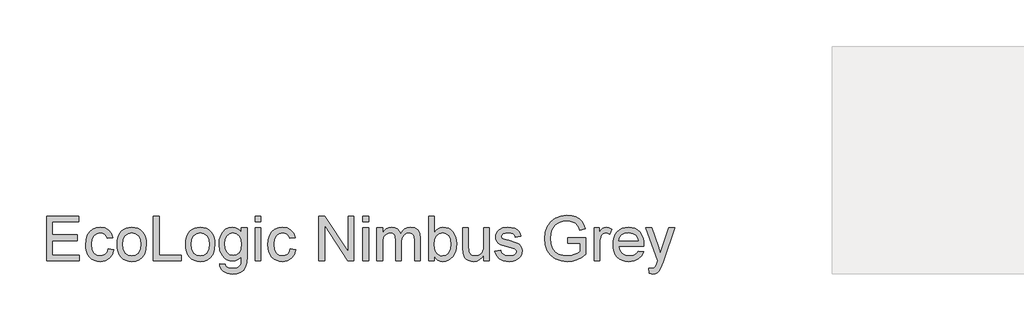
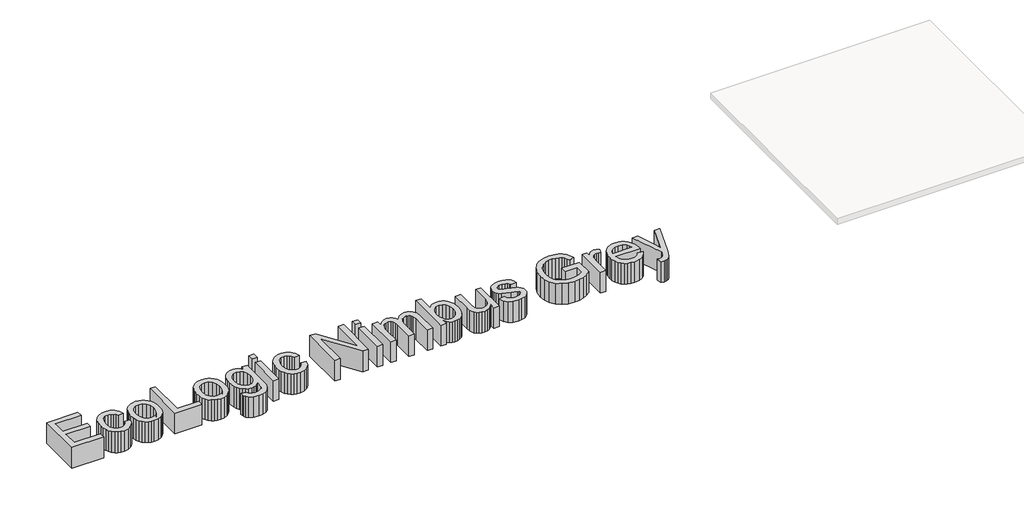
# One storey, part 6 of 6: 1 proxy.
"""IFC4 building model written with IfcOpenShell, lengths in millimetres."""

from ifc_helpers import new_model, si_unit, frame, origin, place, context, project, spatial, polyline, outline, extrude, element, save

model = new_model("IFC4")

# Units and contexts
model_context = context("Model", 3, world=origin())
ifc_project = project(units=[si_unit("LENGTHUNIT", "METRE", prefix="MILLI")], contexts=[model_context])

# Site, building, storey
site = spatial("IfcSite", under=ifc_project)
building = spatial("IfcBuilding", under=site)
storey = spatial("IfcBuildingStorey", under=building, Name="Marley Concrete Interlocking", Elevation=3000.0)

# Proxy
placement = place(None, origin())
element("IfcBuildingElementProxy", 1, Name="600mm Arial", ObjectType="600mm Arial", at=placement, inside=storey, context=model_context, shape_type="SweptSolid", body=[
    extrude(outline(polyline([(-7577.8402677, 3460.405545), (-7577.8402677, 3755.7901604), (-7365.5325754, 3755.7901604), (-7365.5325754, 3718.8670834), (-7540.9171908, 3718.8670834), (-7540.9171908, 3631.1747757), (-7374.7633446, 3631.1747757), (-7374.7633446, 3594.2516988), (-7540.9171908, 3594.2516988), (-7540.9171908, 3497.3286219), (-7360.9171908, 3497.3286219), (-7360.9171908, 3460.405545), (-7577.8402677, 3460.405545)])), frame((0.0, 0.0, 3000.0), z_axis=(0.0, 0.0, 1.0), x_axis=(1.0, 0.0, 0.0)), (0.0, 0.0, 1.0), 150.0),
    extrude(outline(polyline([(-7171.6864215, 3538.8670834), (-7134.7633446, 3534.2516988), (-7145.0578158, 3501.4121556), (-7164.4027677, 3476.5954488), (-7190.9772869, 3460.9914825), (-7222.96046, 3455.7901604), (-7243.6688434, 3457.604313), (-7262.2363013, 3463.0467709), (-7278.6628338, 3472.1175342), (-7292.9484408, 3484.8166027), (-7304.511692, 3500.9050943), (-7312.7711571, 3520.1441267), (-7317.7268362, 3542.5337), (-7319.3787292, 3568.0738142), (-7316.5572148, 3600.9313863), (-7308.0926715, 3629.4079488), (-7293.8498831, 3652.4037421), (-7273.6936331, 3668.8190065), (-7249.5800513, 3678.6627565), (-7223.4652677, 3681.9440065), (-7192.2663494, 3677.436795), (-7167.3234408, 3663.9151604), (-7149.429811, 3642.1002565), (-7139.3787292, 3612.7132373), (-7176.3018062, 3608.0978527), (-7182.9995225, 3624.2066267), (-7193.42921, 3635.7541027), (-7207.0139456, 3642.7042229), (-7223.1768062, 3645.0209296), (-7247.037984, 3640.4596315), (-7265.9772869, 3626.7757373), (-7278.336061, 3603.2300642), (-7282.4556523, 3569.0834296), (-7278.4262052, 3534.4770594), (-7266.3378638, 3510.8502565), (-7247.741109, 3497.2474921), (-7224.1864215, 3492.7132373), (-7205.0668302, 3495.5437661), (-7189.3907485, 3504.0353527), (-7177.9875033, 3518.4043431), (-7171.6864215, 3538.8670834)])), frame((0.0, 0.0, 3000.0), z_axis=(0.0, 0.0, 1.0), x_axis=(1.0, 0.0, 0.0)), (0.0, 0.0, 1.0), 150.0),
    extrude(outline(polyline([(-7111.6864215, 3568.8670834), (-7109.6897268, 3596.960533), (-7103.6996427, 3621.1687661), (-7093.7161691, 3641.491783), (-7079.7393062, 3657.9295834), (-7065.6677917, 3668.4358935), (-7050.1359408, 3675.9404007), (-7033.1437533, 3680.4431051), (-7014.6912292, 3681.9440065), (-6994.3208867, 3680.1163322), (-6975.9021667, 3674.6333094), (-6959.4350694, 3665.494938), (-6944.9195946, 3652.7012181), (-6933.0723891, 3636.6848419), (-6924.6100994, 3617.8785017), (-6919.5327256, 3596.2821976), (-6917.8402677, 3571.8959296), (-6920.8330562, 3534.5942469), (-6929.8114215, 3506.1988142), (-6944.5139456, 3484.9337902), (-6964.67921, 3469.0233334), (-6988.6305321, 3459.0984536), (-7014.6912292, 3455.7901604), (-7035.3590477, 3457.6110738), (-7053.9490417, 3463.0738142), (-7070.4612112, 3472.1783815), (-7084.8955562, 3484.9247757), (-7096.6165598, 3501.0966507), (-7104.9887052, 3520.4776604), (-7110.0119925, 3543.0678046), (-7111.6864215, 3568.8670834)]), holes=[polyline([(-7074.7633446, 3568.9391988), (-7070.4905081, 3535.5227325), (-7057.6719985, 3511.7156411), (-7038.3811331, 3497.4638382), (-7014.6912292, 3492.7132373), (-6991.1094985, 3497.4908815), (-6971.8546908, 3511.8238142), (-6959.0361812, 3535.9464104), (-6954.7633446, 3570.093045), (-6959.0632244, 3602.5359536), (-6971.9628638, 3626.0185257), (-6991.2447148, 3640.2703286), (-7014.6912292, 3645.0209296), (-7038.3811331, 3640.2883575), (-7057.6719985, 3626.0906411), (-7070.4905081, 3602.3376363), (-7074.7633446, 3568.9391988)])]), frame((0.0, 0.0, 3000.0), z_axis=(0.0, 0.0, 1.0), x_axis=(1.0, 0.0, 0.0)), (0.0, 0.0, 1.0), 150.0),
    extrude(outline(polyline([(-6871.6864215, 3460.405545), (-6871.6864215, 3755.7901604), (-6834.7633446, 3755.7901604), (-6834.7633446, 3497.3286219), (-6687.0710369, 3497.3286219), (-6687.0710369, 3460.405545), (-6871.6864215, 3460.405545)])), frame((0.0, 0.0, 3000.0), z_axis=(0.0, 0.0, 1.0), x_axis=(1.0, 0.0, 0.0)), (0.0, 0.0, 1.0), 150.0),
    extrude(outline(polyline([(-6659.3787292, 3568.8670834), (-6657.3820345, 3596.960533), (-6651.3919504, 3621.1687661), (-6641.4084768, 3641.491783), (-6627.4316138, 3657.9295834), (-6613.3600994, 3668.4358935), (-6597.8282485, 3675.9404007), (-6580.836061, 3680.4431051), (-6562.3835369, 3681.9440065), (-6542.0131944, 3680.1163322), (-6523.5944744, 3674.6333094), (-6507.1273771, 3665.494938), (-6492.6119023, 3652.7012181), (-6480.7646968, 3636.6848419), (-6472.3024071, 3617.8785017), (-6467.2250333, 3596.2821976), (-6465.5325754, 3571.8959296), (-6468.5253638, 3534.5942469), (-6477.5037292, 3506.1988142), (-6492.2062533, 3484.9337902), (-6512.3715177, 3469.0233334), (-6536.3228398, 3459.0984536), (-6562.3835369, 3455.7901604), (-6583.0513554, 3457.6110738), (-6601.6413494, 3463.0738142), (-6618.1535189, 3472.1783815), (-6632.5878638, 3484.9247757), (-6644.3088675, 3501.0966507), (-6652.6810129, 3520.4776604), (-6657.7043001, 3543.0678046), (-6659.3787292, 3568.8670834)]), holes=[polyline([(-6622.4556523, 3568.9391988), (-6618.1828158, 3535.5227325), (-6605.3643062, 3511.7156411), (-6586.0734408, 3497.4638382), (-6562.3835369, 3492.7132373), (-6538.8018062, 3497.4908815), (-6519.5469985, 3511.8238142), (-6506.7284888, 3535.9464104), (-6502.4556523, 3570.093045), (-6506.7555321, 3602.5359536), (-6519.6551715, 3626.0185257), (-6538.9370225, 3640.2703286), (-6562.3835369, 3645.0209296), (-6586.0734408, 3640.2883575), (-6605.3643062, 3626.0906411), (-6618.1828158, 3602.3376363), (-6622.4556523, 3568.9391988)])]), frame((0.0, 0.0, 3000.0), z_axis=(0.0, 0.0, 1.0), x_axis=(1.0, 0.0, 0.0)), (0.0, 0.0, 1.0), 150.0),
    extrude(outline(polyline([(-6433.2248831, 3441.9440065), (-6396.3018062, 3437.3286219), (-6392.2272869, 3425.7901604), (-6384.3306523, 3417.8574681), (-6368.8078158, 3411.6916027), (-6348.4893062, 3409.6363142), (-6326.8186331, 3411.9620354), (-6310.7008446, 3418.9391988), (-6299.52296, 3430.1170834), (-6292.6719985, 3445.0449681), (-6290.14796, 3488.0978527), (-6302.4346187, 3475.9824681), (-6316.1455562, 3467.3286219), (-6331.2807725, 3462.1363142), (-6347.8402677, 3460.405545), (-6368.0844083, 3462.4202685), (-6385.9081763, 3468.4644392), (-6401.3115718, 3478.538057), (-6414.2945946, 3492.6411219), (-6424.5958266, 3509.561194), (-6431.9538494, 3528.0858334), (-6437.8402677, 3569.9488142), (-6435.1990417, 3599.7595113), (-6427.2753638, 3627.1723719), (-6414.3486812, 3650.4025402), (-6396.6984408, 3667.6651604), (-6374.928609, 3678.374295), (-6349.6431523, 3681.9440065), (-6332.3760249, 3679.9247757), (-6316.7044504, 3673.8670834), (-6302.6284288, 3663.7709296), (-6290.14796, 3649.6363142), (-6290.14796, 3677.3286219), (-6253.2248831, 3677.3286219), (-6253.2248831, 3490.0449681), (-6255.7489215, 3446.8027806), (-6263.3210369, 3418.3262181), (-6276.3649071, 3399.4410017), (-6295.30421, 3384.9728527), (-6319.7242821, 3375.7781411), (-6349.21046, 3372.7132373), (-6383.5644263, 3377.0311459), (-6410.61671, 3389.9848719), (-6420.8052617, 3399.7091808), (-6427.9694744, 3411.6104729), (-6432.1093482, 3425.6887481), (-6433.2248831, 3441.9440065)]), holes=[polyline([(-6400.9171908, 3572.4728527), (-6396.9778879, 3538.6056652), (-6385.1599792, 3515.3214104), (-6367.3925513, 3501.826819), (-6345.6046908, 3497.3286219), (-6323.9790898, 3501.7997757), (-6306.1215177, 3515.2132373), (-6294.1413494, 3538.2000161), (-6290.14796, 3571.3911219), (-6294.2585369, 3603.4013382), (-6306.5902677, 3626.4512181), (-6324.7092581, 3640.3785017), (-6346.1816138, 3645.0209296), (-6367.2663494, 3640.4506171), (-6384.9436331, 3626.7396796), (-6396.9238013, 3604.0323479), (-6400.9171908, 3572.4728527)])]), frame((0.0, 0.0, 3000.0), z_axis=(0.0, 0.0, 1.0), x_axis=(1.0, 0.0, 0.0)), (0.0, 0.0, 1.0), 150.0),
    extrude(outline(polyline([(-6197.8402677, 3460.405545), (-6197.8402677, 3677.3286219), (-6160.9171908, 3677.3286219), (-6160.9171908, 3460.405545), (-6197.8402677, 3460.405545)])), frame((0.0, 0.0, 3000.0), z_axis=(0.0, 0.0, 1.0), x_axis=(1.0, 0.0, 0.0)), (0.0, 0.0, 1.0), 150.0),
    extrude(outline(polyline([(-6197.8402677, 3718.8670834), (-6197.8402677, 3755.7901604), (-6160.9171908, 3755.7901604), (-6160.9171908, 3718.8670834), (-6197.8402677, 3718.8670834)])), frame((0.0, 0.0, 3000.0), z_axis=(0.0, 0.0, 1.0), x_axis=(1.0, 0.0, 0.0)), (0.0, 0.0, 1.0), 150.0),
    extrude(outline(polyline([(-5967.0710369, 3538.8670834), (-5930.14796, 3534.2516988), (-5940.4424312, 3501.4121556), (-5959.7873831, 3476.5954488), (-5986.3619023, 3460.9914825), (-6018.3450754, 3455.7901604), (-6039.0534588, 3457.604313), (-6057.6209167, 3463.0467709), (-6074.0474492, 3472.1175342), (-6088.3330562, 3484.8166027), (-6099.8963074, 3500.9050943), (-6108.1557725, 3520.1441267), (-6113.1114516, 3542.5337), (-6114.7633446, 3568.0738142), (-6111.9418302, 3600.9313863), (-6103.4772869, 3629.4079488), (-6089.2344985, 3652.4037421), (-6069.0782485, 3668.8190065), (-6044.9646667, 3678.6627565), (-6018.8498831, 3681.9440065), (-5987.6509648, 3677.436795), (-5962.7080562, 3663.9151604), (-5944.8144263, 3642.1002565), (-5934.7633446, 3612.7132373), (-5971.6864215, 3608.0978527), (-5978.3841379, 3624.2066267), (-5988.8138254, 3635.7541027), (-6002.398561, 3642.7042229), (-6018.5614215, 3645.0209296), (-6042.4225994, 3640.4596315), (-6061.3619023, 3626.7757373), (-6073.7206763, 3603.2300642), (-6077.8402677, 3569.0834296), (-6073.8108206, 3534.4770594), (-6061.7224792, 3510.8502565), (-6043.1257244, 3497.2474921), (-6019.5710369, 3492.7132373), (-6000.4514456, 3495.5437661), (-5984.7753638, 3504.0353527), (-5973.3721187, 3518.4043431), (-5967.0710369, 3538.8670834)])), frame((0.0, 0.0, 3000.0), z_axis=(0.0, 0.0, 1.0), x_axis=(1.0, 0.0, 0.0)), (0.0, 0.0, 1.0), 150.0),
    extrude(outline(polyline([(-5777.8402677, 3460.405545), (-5777.8402677, 3755.7901604), (-5738.3210369, 3755.7901604), (-5583.9941138, 3521.7757373), (-5583.9941138, 3755.7901604), (-5547.0710369, 3755.7901604), (-5547.0710369, 3460.405545), (-5586.5902677, 3460.405545), (-5740.9171908, 3694.4920834), (-5740.9171908, 3460.405545), (-5777.8402677, 3460.405545)])), frame((0.0, 0.0, 3000.0), z_axis=(0.0, 0.0, 1.0), x_axis=(1.0, 0.0, 0.0)), (0.0, 0.0, 1.0), 150.0),
    extrude(outline(polyline([(-5487.0710369, 3460.405545), (-5487.0710369, 3677.3286219), (-5450.14796, 3677.3286219), (-5450.14796, 3460.405545), (-5487.0710369, 3460.405545)])), frame((0.0, 0.0, 3000.0), z_axis=(0.0, 0.0, 1.0), x_axis=(1.0, 0.0, 0.0)), (0.0, 0.0, 1.0), 150.0),
    extrude(outline(polyline([(-5487.0710369, 3718.8670834), (-5487.0710369, 3755.7901604), (-5450.14796, 3755.7901604), (-5450.14796, 3718.8670834), (-5487.0710369, 3718.8670834)])), frame((0.0, 0.0, 3000.0), z_axis=(0.0, 0.0, 1.0), x_axis=(1.0, 0.0, 0.0)), (0.0, 0.0, 1.0), 150.0),
    extrude(outline(polyline([(-5394.7633446, 3460.405545), (-5394.7633446, 3677.3286219), (-5357.8402677, 3677.3286219), (-5357.8402677, 3641.6315065), (-5346.7344985, 3658.0287421), (-5332.4556523, 3670.874295), (-5315.4905081, 3679.1765786), (-5296.3258446, 3681.9440065), (-5275.7909888, 3679.1224921), (-5259.3306523, 3670.6579488), (-5247.0349792, 3657.1092709), (-5238.9941138, 3639.0353527), (-5225.5355802, 3657.8078887), (-5210.1840177, 3671.2168431), (-5192.9394263, 3679.2622157), (-5173.8018062, 3681.9440065), (-5146.0463975, 3677.4818671), (-5125.5205562, 3664.0954488), (-5112.8372629, 3641.4241748), (-5108.6094985, 3609.1074681), (-5108.6094985, 3460.405545), (-5145.5325754, 3460.405545), (-5145.5325754, 3593.2420834), (-5148.9580562, 3624.0714104), (-5153.7717581, 3632.5720113), (-5161.3619023, 3639.2516988), (-5171.1245225, 3643.5786219), (-5182.4556523, 3645.0209296), (-5202.4586571, 3641.3250161), (-5218.7657485, 3630.2372757), (-5229.6100994, 3611.0004969), (-5233.2248831, 3582.8574681), (-5233.2248831, 3460.405545), (-5270.14796, 3460.405545), (-5270.14796, 3597.3526604), (-5272.2843783, 3618.2300642), (-5278.6936331, 3633.1218911), (-5289.9706763, 3642.04617), (-5306.71046, 3645.0209296), (-5320.9352196, 3643.0377565), (-5334.0421908, 3637.0882373), (-5344.8594985, 3627.3166027), (-5352.2152677, 3613.8670834), (-5356.4340177, 3595.2072277), (-5357.8402677, 3569.8045834), (-5357.8402677, 3460.405545), (-5394.7633446, 3460.405545)])), frame((0.0, 0.0, 3000.0), z_axis=(0.0, 0.0, 1.0), x_axis=(1.0, 0.0, 0.0)), (0.0, 0.0, 1.0), 150.0),
    extrude(outline(polyline([(-5016.3018062, 3460.405545), (-5053.2248831, 3460.405545), (-5053.2248831, 3755.7901604), (-5016.3018062, 3755.7901604), (-5016.3018062, 3646.2468911), (-5004.1593783, 3661.8643791), (-4990.4484408, 3673.0197277), (-4975.1689937, 3679.7129368), (-4958.3210369, 3681.9440065), (-4939.3006042, 3679.9337902), (-4921.3258446, 3673.9031411), (-4905.4244023, 3664.2306652), (-4892.6239215, 3651.2949681), (-4882.5908687, 3635.2222517), (-4874.99171, 3616.1387181), (-4870.2050513, 3594.8376363), (-4868.6094985, 3572.1122757), (-4870.2613915, 3545.889319), (-4875.2170706, 3522.8214104), (-4883.4765357, 3502.9085498), (-4895.0397869, 3486.1507373), (-4908.9197449, 3472.8679849), (-4924.1293302, 3463.3803046), (-4940.6685429, 3457.6876964), (-4958.5373831, 3455.7901604), (-4975.9397268, 3458.2375762), (-4991.3679119, 3465.5798238), (-5004.8219384, 3477.8169032), (-5016.3018062, 3494.9488142), (-5016.3018062, 3460.405545)]), holes=[polyline([(-5016.3018062, 3570.3815065), (-5013.7777677, 3539.5882373), (-5006.2056523, 3518.7468911), (-4997.2588374, 3507.3571676), (-4986.8607004, 3499.2216507), (-4975.0112413, 3494.3403407), (-4961.71046, 3492.7132373), (-4940.4003638, 3497.5089104), (-4922.1912292, 3511.8959296), (-4909.6972388, 3535.7841507), (-4905.5325754, 3569.0834296), (-4909.5259648, 3602.8694873), (-4921.5061331, 3626.4872757), (-4939.147359, 3640.3875161), (-4960.1239215, 3645.0209296), (-4981.4340177, 3640.2252565), (-4999.6431523, 3625.8382373), (-5012.1371427, 3602.3827084), (-5016.3018062, 3570.3815065)])]), frame((0.0, 0.0, 3000.0), z_axis=(0.0, 0.0, 1.0), x_axis=(1.0, 0.0, 0.0)), (0.0, 0.0, 1.0), 150.0),
    extrude(outline(polyline([(-4688.6094985, 3460.405545), (-4688.6094985, 3497.6891988), (-4701.9688735, 3479.3583695), (-4717.5277677, 3466.26492), (-4735.2861812, 3458.4088503), (-4755.2441138, 3455.7901604), (-4773.2278879, 3457.6291027), (-4789.9676715, 3463.1459296), (-4804.0121427, 3471.4391988), (-4813.9099792, 3481.6074681), (-4824.9075754, 3508.7949681), (-4827.0710369, 3543.1218911), (-4827.0710369, 3677.3286219), (-4790.14796, 3677.3286219), (-4790.14796, 3560.5016988), (-4787.9123831, 3522.8574681), (-4782.5307725, 3510.3003767), (-4773.3090177, 3500.7541027), (-4760.8600994, 3494.7234536), (-4745.7969985, 3492.7132373), (-4729.8685129, 3494.7685257), (-4714.9676715, 3500.9343911), (-4702.6810129, 3510.6429248), (-4694.5950754, 3523.3262181), (-4690.1058927, 3540.6970113), (-4688.6094985, 3564.468045), (-4688.6094985, 3677.3286219), (-4651.6864215, 3677.3286219), (-4651.6864215, 3460.405545), (-4688.6094985, 3460.405545)])), frame((0.0, 0.0, 3000.0), z_axis=(0.0, 0.0, 1.0), x_axis=(1.0, 0.0, 0.0)), (0.0, 0.0, 1.0), 150.0),
    extrude(outline(polyline([(-4614.7633446, 3525.0209296), (-4577.8402677, 3529.6363142), (-4572.0169504, 3513.843045), (-4560.7489215, 3502.2324681), (-4543.9640658, 3495.093045), (-4521.5902677, 3492.7132373), (-4499.4869023, 3494.8947277), (-4483.9460369, 3501.4391988), (-4474.7513254, 3510.9223719), (-4471.6864215, 3521.9199681), (-4474.7693542, 3531.3310257), (-4484.0181523, 3538.5065065), (-4522.02296, 3549.0353527), (-4577.6239215, 3567.1002565), (-4591.695436, 3576.1777806), (-4601.8907485, 3588.1940065), (-4608.0836571, 3602.3827084), (-4610.14796, 3617.9776604), (-4608.4893062, 3632.2835498), (-4603.5133446, 3645.4896796), (-4595.6707965, 3657.0732132), (-4585.4123831, 3666.5113142), (-4561.9388254, 3677.436795), (-4530.1719985, 3681.9440065), (-4506.1395465, 3680.1321075), (-4485.2441138, 3674.6964104), (-4468.4412292, 3666.1687661), (-4456.6864215, 3655.0810257), (-4448.89796, 3640.6128767), (-4443.9941138, 3621.9440065), (-4480.9171908, 3617.3286219), (-4485.5776475, 3628.9482132), (-4494.7994023, 3637.7012181), (-4508.6725994, 3643.1910017), (-4527.2873831, 3645.0209296), (-4548.4893062, 3643.2721315), (-4562.6239215, 3638.0257373), (-4570.5746427, 3630.4536219), (-4573.2248831, 3621.7276604), (-4568.8258446, 3610.9824681), (-4555.0518062, 3602.8334296), (-4523.2489215, 3594.9728527), (-4469.05421, 3577.593045), (-4454.7393062, 3569.2817469), (-4443.8859408, 3557.905545), (-4437.0439937, 3543.4283815), (-4434.7633446, 3525.8141988), (-4437.4406283, 3507.6050642), (-4445.4724792, 3490.4776604), (-4458.5524071, 3475.7751363), (-4476.3739215, 3464.8406411), (-4497.9003638, 3458.0527806), (-4522.0950754, 3455.7901604), (-4559.3246427, 3460.1531411), (-4586.4941138, 3473.2420834), (-4604.6311331, 3494.9127565), (-4614.7633446, 3525.0209296)])), frame((0.0, 0.0, 3000.0), z_axis=(0.0, 0.0, 1.0), x_axis=(1.0, 0.0, 0.0)), (0.0, 0.0, 1.0), 150.0),
    extrude(outline(polyline([(-4134.7633446, 3575.7901604), (-4134.7633446, 3612.7132373), (-4014.7633446, 3612.7132373), (-4014.7633446, 3502.3045834), (-4043.9250033, 3482.0221315), (-4074.0061331, 3467.4728527), (-4104.9346187, 3458.7108334), (-4136.6383446, 3455.7901604), (-4178.0596187, 3460.4325882), (-4215.4965177, 3474.3598719), (-4246.5962773, 3497.0852325), (-4269.0061331, 3528.1218911), (-4282.554811, 3565.3514584), (-4287.0710369, 3606.655545), (-4282.5728398, 3648.2571075), (-4269.0782485, 3686.9560257), (-4247.1461571, 3719.4169632), (-4217.33546, 3742.3045834), (-4181.0253638, 3755.8803046), (-4139.5950754, 3760.405545), (-4109.1804119, 3757.7823479), (-4081.8306523, 3749.9127565), (-4058.7988013, 3737.3646796), (-4041.3378638, 3720.7060257), (-4028.4201956, 3699.1345113), (-4019.0181523, 3671.8478527), (-4053.0566138, 3662.2565065), (-4060.6557725, 3681.7186459), (-4069.8955562, 3696.4031411), (-4082.1191138, 3707.4728527), (-4098.6695946, 3716.0906411), (-4118.4021667, 3721.6345113), (-4140.1719985, 3723.4824681), (-4165.6557725, 3721.4902806), (-4187.4436331, 3715.5137181), (-4205.4544504, 3706.3009777), (-4219.6070946, 3694.6002565), (-4238.6094985, 3666.1507373), (-4247.2633446, 3638.2781411), (-4250.14796, 3608.1699681), (-4246.6774071, 3572.8604729), (-4236.2657485, 3543.8069873), (-4219.2284888, 3521.2168431), (-4195.8811331, 3505.2973719), (-4168.5584167, 3495.8592709), (-4139.5950754, 3492.7132373), (-4114.0211571, 3495.0840306), (-4089.0782485, 3502.1964104), (-4067.4165898, 3511.9950882), (-4051.6864215, 3522.4247757), (-4051.6864215, 3575.7901604), (-4134.7633446, 3575.7901604)])), frame((0.0, 0.0, 3000.0), z_axis=(0.0, 0.0, 1.0), x_axis=(1.0, 0.0, 0.0)), (0.0, 0.0, 1.0), 150.0),
    extrude(outline(polyline([(-3959.3787292, 3460.405545), (-3959.3787292, 3677.3286219), (-3927.0710369, 3677.3286219), (-3927.0710369, 3645.2372757), (-3915.1359408, 3663.843045), (-3904.1383446, 3674.8045834), (-3893.1046908, 3680.1591507), (-3881.0614215, 3681.9440065), (-3862.6719985, 3679.0954488), (-3843.9941138, 3670.5497757), (-3856.3258446, 3637.4488142), (-3869.3066138, 3643.1279007), (-3882.2873831, 3645.0209296), (-3893.3120225, 3643.2000161), (-3903.1647869, 3637.7372757), (-3911.1245225, 3629.0473719), (-3916.4700754, 3617.5449681), (-3920.9592581, 3596.9199681), (-3922.4556523, 3574.4199681), (-3922.4556523, 3460.405545), (-3959.3787292, 3460.405545)])), frame((0.0, 0.0, 3000.0), z_axis=(0.0, 0.0, 1.0), x_axis=(1.0, 0.0, 0.0)), (0.0, 0.0, 1.0), 150.0),
    extrude(outline(polyline([(-3669.0421908, 3525.0209296), (-3632.8402677, 3520.405545), (-3645.8841379, 3493.1279007), (-3666.6984408, 3472.7372757), (-3694.8144263, 3460.0269392), (-3729.7633446, 3455.7901604), (-3752.6735009, 3457.6178346), (-3773.0866619, 3463.1008575), (-3791.0028278, 3472.2392289), (-3806.4219985, 3485.0329488), (-3818.8213374, 3501.1259476), (-3827.6780081, 3520.1621556), (-3832.9920105, 3542.1415726), (-3834.7633446, 3567.0641988), (-3832.9739816, 3592.8319272), (-3827.6058927, 3615.5437661), (-3818.6590778, 3635.1997157), (-3806.1335369, 3651.7997757), (-3790.7549312, 3664.9878767), (-3773.2489215, 3674.4079488), (-3753.6155081, 3680.0599921), (-3731.8546908, 3681.9440065), (-3710.7947449, 3680.0644993), (-3691.7495225, 3674.4259777), (-3674.7190237, 3665.0284416), (-3659.7032485, 3651.8718911), (-3647.4458867, 3635.3078887), (-3638.6906283, 3615.6879969), (-3633.4374732, 3593.0122157), (-3631.6864215, 3567.280545), (-3631.9027677, 3557.3286219), (-3797.8402677, 3557.3286219), (-3791.4490417, 3529.6904007), (-3776.6022869, 3509.3718911), (-3755.1750033, 3496.8779007), (-3729.0421908, 3492.7132373), (-3709.3907485, 3494.6423238), (-3692.8402677, 3500.4295834), (-3679.3907485, 3510.4355931), (-3669.0421908, 3525.0209296)]), holes=[polyline([(-3797.8402677, 3594.2516988), (-3668.6094985, 3594.2516988), (-3673.6034888, 3613.7589104), (-3683.3931523, 3627.7132373), (-3704.9195946, 3640.6940065), (-3731.9989215, 3645.0209296), (-3756.8877437, 3641.5684056), (-3777.4676715, 3631.2108334), (-3791.773561, 3615.0660017), (-3797.8402677, 3594.2516988)])]), frame((0.0, 0.0, 3000.0), z_axis=(0.0, 0.0, 1.0), x_axis=(1.0, 0.0, 0.0)), (0.0, 0.0, 1.0), 150.0),
    extrude(outline(polyline([(-3594.7633446, 3377.3286219), (-3599.3787292, 3412.8815065), (-3580.6287292, 3409.6363142), (-3563.1046908, 3413.7108334), (-3552.3594985, 3425.0690065), (-3542.2633446, 3452.2565065), (-3539.3787292, 3461.1988142), (-3617.8402677, 3677.3286219), (-3578.89796, 3677.3286219), (-3537.2873831, 3556.8959296), (-3522.7921908, 3508.7228527), (-3508.2969985, 3551.2709296), (-3465.5325754, 3677.3286219), (-3426.8787292, 3677.3286219), (-3502.3835369, 3455.2132373), (-3521.9989215, 3407.0401604), (-3532.0409888, 3391.6615546), (-3543.4171908, 3381.0065065), (-3556.632335, 3374.7865546), (-3572.1912292, 3372.7132373), (-3594.7633446, 3377.3286219)])), frame((0.0, 0.0, 3000.0), z_axis=(0.0, 0.0, 1.0), x_axis=(1.0, 0.0, 0.0)), (0.0, 0.0, 1.0), 150.0),
])

save(model, "model.ifc")
